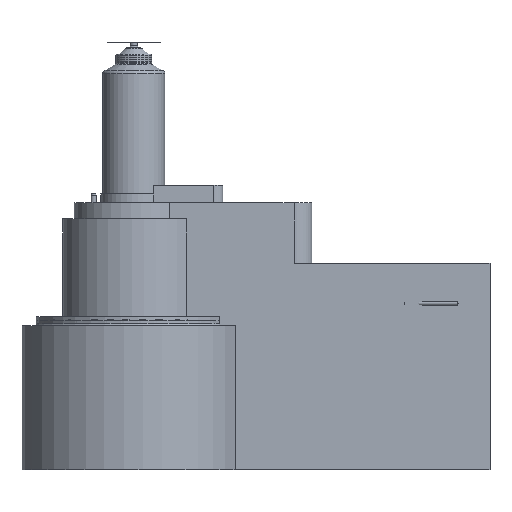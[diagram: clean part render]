
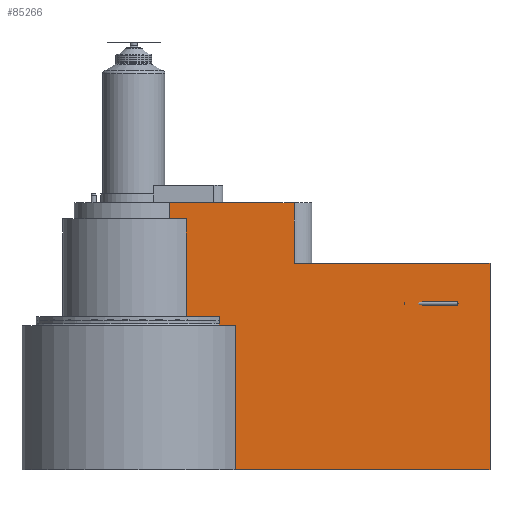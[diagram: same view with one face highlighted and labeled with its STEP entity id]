
A CAD part, front view. The second image highlights one B-rep face of the part: STEP entity #85266.
In plain terms, the highlighted planar face has unit normal (0, -1, 0).
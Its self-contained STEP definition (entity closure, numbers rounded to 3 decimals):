
#114 = ORIENTED_EDGE ( 'NONE', *, *, #58631, .F. ) ;
#168 = DIRECTION ( 'NONE',  ( 0., 0., 1. ) ) ;
#933 = PLANE ( 'NONE',  #64295 ) ;
#1236 = LINE ( 'NONE', #15612, #11101 ) ;
#3251 = EDGE_CURVE ( 'NONE', #17940, #57637, #44787, .T. ) ;
#3833 = CARTESIAN_POINT ( 'NONE',  ( 200., -27., 115. ) ) ;
#5332 = CARTESIAN_POINT ( 'NONE',  ( 56.921, -27., -1. ) ) ;
#5820 = ORIENTED_EDGE ( 'NONE', *, *, #23195, .F. ) ;
#7264 = CARTESIAN_POINT ( 'NONE',  ( 19.831, -27., 196.716 ) ) ;
#7506 = CARTESIAN_POINT ( 'NONE',  ( 200., -27., -1. ) ) ;
#8476 = EDGE_CURVE ( 'NONE', #84593, #60356, #87286, .T. ) ;
#9259 = VECTOR ( 'NONE', #90423, 1000. ) ;
#9495 = VECTOR ( 'NONE', #168, 1000. ) ;
#10432 = VERTEX_POINT ( 'NONE', #14195 ) ;
#11101 = VECTOR ( 'NONE', #31297, 1000. ) ;
#11402 = LINE ( 'NONE', #61640, #46701 ) ;
#12823 = VERTEX_POINT ( 'NONE', #69031 ) ;
#13977 = CARTESIAN_POINT ( 'NONE',  ( 200., -27., -1. ) ) ;
#14195 = CARTESIAN_POINT ( 'NONE',  ( 56.921, -27., 80. ) ) ;
#15198 = ORIENTED_EDGE ( 'NONE', *, *, #56388, .F. ) ;
#15258 = VERTEX_POINT ( 'NONE', #58480 ) ;
#15528 = DIRECTION ( 'NONE',  ( -1., 0., 0. ) ) ;
#15612 = CARTESIAN_POINT ( 'NONE',  ( 200., -27., 149. ) ) ;
#16132 = VECTOR ( 'NONE', #23876, 1000. ) ;
#16779 = LINE ( 'NONE', #3833, #33276 ) ;
#17940 = VERTEX_POINT ( 'NONE', #83846 ) ;
#18290 = CARTESIAN_POINT ( 'NONE',  ( 200., -27., 115. ) ) ;
#19326 = DIRECTION ( 'NONE',  ( 0., 0., 1. ) ) ;
#21038 = ORIENTED_EDGE ( 'NONE', *, *, #50822, .T. ) ;
#21620 = ORIENTED_EDGE ( 'NONE', *, *, #36819, .F. ) ;
#22752 = CARTESIAN_POINT ( 'NONE',  ( 200., -27., 149. ) ) ;
#23195 = EDGE_CURVE ( 'NONE', #46450, #39844, #16779, .T. ) ;
#23876 = DIRECTION ( 'NONE',  ( -1., 0., 0. ) ) ;
#25590 = ORIENTED_EDGE ( 'NONE', *, *, #8476, .F. ) ;
#25708 = DIRECTION ( 'NONE',  ( 0., 0., 1. ) ) ;
#26697 = EDGE_CURVE ( 'NONE', #80134, #15258, #84629, .T. ) ;
#28262 = ORIENTED_EDGE ( 'NONE', *, *, #3251, .T. ) ;
#30205 = LINE ( 'NONE', #40755, #9259 ) ;
#31297 = DIRECTION ( 'NONE',  ( -1., 0., 0. ) ) ;
#31380 = EDGE_CURVE ( 'NONE', #39844, #67075, #35572, .T. ) ;
#32962 = ORIENTED_EDGE ( 'NONE', *, *, #74504, .T. ) ;
#32984 = DIRECTION ( 'NONE',  ( 0., 0., -1. ) ) ;
#33276 = VECTOR ( 'NONE', #60875, 1000. ) ;
#34532 = CARTESIAN_POINT ( 'NONE',  ( 48.137, -27., 80.667 ) ) ;
#35572 = LINE ( 'NONE', #39485, #47699 ) ;
#36515 = LINE ( 'NONE', #89820, #48666 ) ;
#36612 = VERTEX_POINT ( 'NONE', #40007 ) ;
#36819 = EDGE_CURVE ( 'NONE', #67075, #50818, #71576, .T. ) ;
#37434 = CARTESIAN_POINT ( 'NONE',  ( 48.578, -27., 80. ) ) ;
#39476 = VECTOR ( 'NONE', #63374, 1000. ) ;
#39485 = CARTESIAN_POINT ( 'NONE',  ( 200., -27., 149. ) ) ;
#39829 = ORIENTED_EDGE ( 'NONE', *, *, #82225, .F. ) ;
#39844 = VERTEX_POINT ( 'NONE', #18290 ) ;
#40007 = CARTESIAN_POINT ( 'NONE',  ( 90., -27., 149. ) ) ;
#40755 = CARTESIAN_POINT ( 'NONE',  ( 90., -27., 149. ) ) ;
#43431 = DIRECTION ( 'NONE',  ( 0., 0., 1. ) ) ;
#44236 = CARTESIAN_POINT ( 'NONE',  ( 0., -27., 85. ) ) ;
#44787 = B_SPLINE_CURVE_WITH_KNOTS ( 'NONE', 3,
 ( #70026, #34532, #77709, #83909 ),
 .UNSPECIFIED., .F., .F.,
 ( 4, 4 ),
 ( 0., 0.001 ),
 .UNSPECIFIED. ) ;
#45959 = CARTESIAN_POINT ( 'NONE',  ( 29.513, -27., 85. ) ) ;
#46450 = VERTEX_POINT ( 'NONE', #51951 ) ;
#46701 = VECTOR ( 'NONE', #19326, 1000. ) ;
#47699 = VECTOR ( 'NONE', #32984, 1000. ) ;
#48666 = VECTOR ( 'NONE', #76261, 1000. ) ;
#48830 = ORIENTED_EDGE ( 'NONE', *, *, #26697, .F. ) ;
#49302 = VECTOR ( 'NONE', #84692, 1000. ) ;
#50818 = VERTEX_POINT ( 'NONE', #5332 ) ;
#50822 = EDGE_CURVE ( 'NONE', #46450, #36612, #30205, .T. ) ;
#51177 = DIRECTION ( 'NONE',  ( 0., 1., 0. ) ) ;
#51951 = CARTESIAN_POINT ( 'NONE',  ( 90., -27., 115. ) ) ;
#53660 = LINE ( 'NONE', #44236, #16132 ) ;
#53837 = EDGE_CURVE ( 'NONE', #17940, #12823, #11402, .T. ) ;
#53970 = LINE ( 'NONE', #56866, #83811 ) ;
#56388 = EDGE_CURVE ( 'NONE', #10432, #57637, #36515, .T. ) ;
#56866 = CARTESIAN_POINT ( 'NONE',  ( 0., -27., 140. ) ) ;
#57019 = ORIENTED_EDGE ( 'NONE', *, *, #53837, .F. ) ;
#57637 = VERTEX_POINT ( 'NONE', #37434 ) ;
#58480 = CARTESIAN_POINT ( 'NONE',  ( 19.831, -27., 149. ) ) ;
#58631 = EDGE_CURVE ( 'NONE', #60356, #80134, #53970, .T. ) ;
#59693 = VECTOR ( 'NONE', #25708, 1000. ) ;
#60356 = VERTEX_POINT ( 'NONE', #73123 ) ;
#60875 = DIRECTION ( 'NONE',  ( 1., 0., 0. ) ) ;
#61640 = CARTESIAN_POINT ( 'NONE',  ( 47.917, -27., 196.716 ) ) ;
#63374 = DIRECTION ( 'NONE',  ( -1., 0., 0. ) ) ;
#64295 = AXIS2_PLACEMENT_3D ( 'NONE', #22752, #51177, #43431 ) ;
#67075 = VERTEX_POINT ( 'NONE', #7506 ) ;
#67929 = EDGE_CURVE ( 'NONE', #50818, #10432, #77879, .T. ) ;
#69031 = CARTESIAN_POINT ( 'NONE',  ( 47.917, -27., 85. ) ) ;
#70026 = CARTESIAN_POINT ( 'NONE',  ( 47.917, -27., 81. ) ) ;
#71576 = LINE ( 'NONE', #13977, #39476 ) ;
#73123 = CARTESIAN_POINT ( 'NONE',  ( 29.513, -27., 140. ) ) ;
#74504 = EDGE_CURVE ( 'NONE', #36612, #15258, #1236, .T. ) ;
#75055 = CARTESIAN_POINT ( 'NONE',  ( 29.513, -27., 196.716 ) ) ;
#76261 = DIRECTION ( 'NONE',  ( -1., 0., 0. ) ) ;
#77637 = FACE_OUTER_BOUND ( 'NONE', #86392, .T. ) ;
#77709 = CARTESIAN_POINT ( 'NONE',  ( 48.358, -27., 80.333 ) ) ;
#77879 = LINE ( 'NONE', #84333, #9495 ) ;
#78295 = ORIENTED_EDGE ( 'NONE', *, *, #31380, .F. ) ;
#80134 = VERTEX_POINT ( 'NONE', #80965 ) ;
#80965 = CARTESIAN_POINT ( 'NONE',  ( 19.831, -27., 140. ) ) ;
#81628 = ORIENTED_EDGE ( 'NONE', *, *, #67929, .F. ) ;
#82225 = EDGE_CURVE ( 'NONE', #12823, #84593, #53660, .T. ) ;
#83811 = VECTOR ( 'NONE', #15528, 1000. ) ;
#83846 = CARTESIAN_POINT ( 'NONE',  ( 47.917, -27., 81. ) ) ;
#83909 = CARTESIAN_POINT ( 'NONE',  ( 48.578, -27., 80. ) ) ;
#84333 = CARTESIAN_POINT ( 'NONE',  ( 56.921, -27., 196.716 ) ) ;
#84593 = VERTEX_POINT ( 'NONE', #45959 ) ;
#84629 = LINE ( 'NONE', #7264, #49302 ) ;
#84692 = DIRECTION ( 'NONE',  ( 0., 0., 1. ) ) ;
#85266 = ADVANCED_FACE ( 'NONE', ( #77637 ), #933, .F. ) ;
#86392 = EDGE_LOOP ( 'NONE', ( #5820, #21038, #32962, #48830, #114, #25590, #39829, #57019, #28262, #15198, #81628, #21620, #78295 ) ) ;
#87286 = LINE ( 'NONE', #75055, #59693 ) ;
#89820 = CARTESIAN_POINT ( 'NONE',  ( 0., -27., 80. ) ) ;
#90423 = DIRECTION ( 'NONE',  ( 0., 0., 1. ) ) ;
